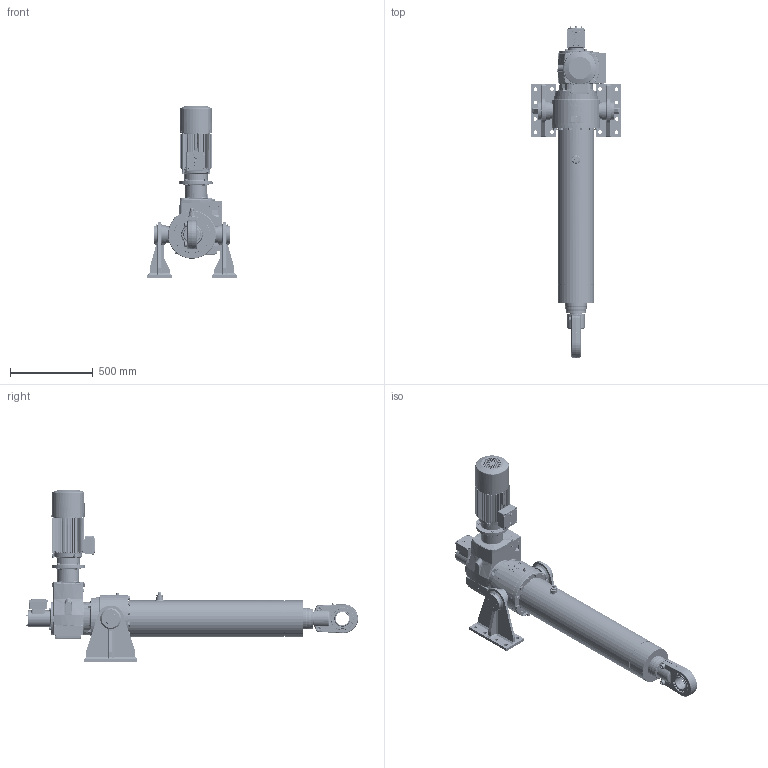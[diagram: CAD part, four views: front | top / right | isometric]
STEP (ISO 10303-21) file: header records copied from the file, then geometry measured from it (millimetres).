
FILE_DESCRIPTION(/* description */ ('Unknown'),/* implementation_level */ '2;1');
FILE_NAME(/* name */ 'K1T9-0600-168-193-1',/* time_stamp */ '2025-04-25T13:43:01+02:00',/* author */ ('Christoph Hahmann'),/* organization */ ('RACO-ELEKTRO-MASCHINEN GmbH'),/* preprocessor_version */ 'ST-DEVELOPER v18.104',/* originating_system */ 'Solid Edge',/* authorisation */ 'Unknown');
FILE_SCHEMA (('AUTOMOTIVE_DESIGN {1 0 10303 214 3 1 1}'));
Length unit declared in the file: millimetre
Products named in the file (20): 168-193-1; 03.01-09-mit DZ; 02.14-09-0600; 01.15-09-0600-o Gewinde; 01.01-09_80; Entlüftung M30; 03.65-09; Sk9032.1_IEC90; 05.51-09_SK9032_GZ; M12; Klemmenkasten-GZ; Gehaeuse_A_ohne_KK; 100-B5-lang-BR_ohne; Lüfterhaube-100-lang; M10; 168-489-2_1; Tülle; Ex_Adapter; Klemmenkasten; Erdungsschraube_M10_kpl
Assembly tree (26 placements, depth 2):
  168-193-1
    03.01-09-mit DZ
    02.14-09-0600
    01.15-09-0600-o Gewinde
    01.01-09_80
    Entlüftung M30
    03.65-09  x2
    Sk9032.1_IEC90
    05.51-09_SK9032_GZ
    M12  x4
    Klemmenkasten-GZ
    Gehaeuse_A_ohne_KK
    100-B5-lang-BR_ohne
    Lüfterhaube-100-lang
    M10  x4
    168-489-2_1
    Tülle
    Ex_Adapter
    Klemmenkasten
    Erdungsschraube_M10_kpl
Bounding box: 540 x 2006.18 x 1036 mm (x, y, z)
Volume: 98515506 mm3; surface area: 4063550.4 mm2
Topology: 27 solids, 53 shells, 8705 faces, 26317 edges, 16970 vertices
Faces by surface type: plane 6432, cylinder 1268, bspline 352, torus 307, cone 256, sphere 90
Full cylindrical faces by diameter (mm): 1 x73, 2 x2, 3.5 x4, 4 x1, 4.134 x3, 4.6 x1, 5 x7, 5.3 x8, 5.5 x1, 6 x6, 6.429 x2, 7.5 x4, 7.6 x1, 7.85 x2, 8 x10, 9.1 x3, 9.59 x3, 9.6 x12, 10 x24, 10.5 x8, 11 x1, 12 x5, 13 x6, 13.3 x4, 13.5 x4, 15 x2, 15.5 x9, 16 x8, 17 x9, 17.8 x4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
Entity records: 246434 total; most frequent: CARTESIAN_POINT 45949, ORIENTED_EDGE 33952, DIRECTION 33721, EDGE_CURVE 16976, AXIS2_PLACEMENT_3D 11924, VERTEX_POINT 11157, LINE 9873, VECTOR 9873
